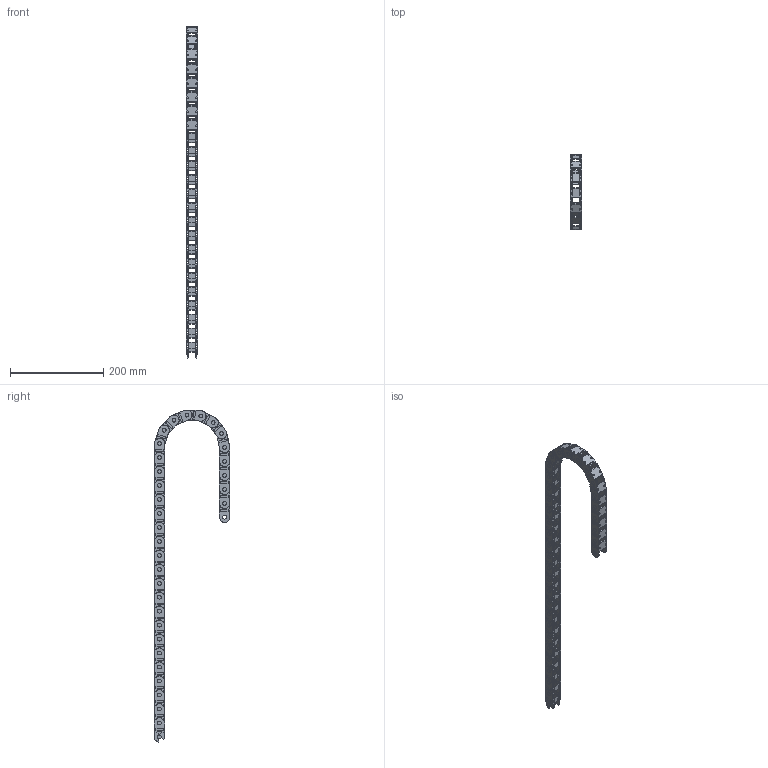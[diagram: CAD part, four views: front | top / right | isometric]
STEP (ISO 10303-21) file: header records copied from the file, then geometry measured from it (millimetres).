
FILE_DESCRIPTION (( 'STEP AP203' ), '1' );
FILE_NAME ('22.025.4-R70.STEP', '2025-04-15T08:43:06', ( '' ), ( '' ), 'SwSTEP 2.0', 'SolidWorks 2023', '' );
FILE_SCHEMA (( 'CONFIG_CONTROL_DESIGN' ));
Length unit declared in the file: millimetre
Products named in the file (3): 22.025.4_100981; Kopie von Kettenglied_Kettenvorlage_Kolibri^Unterbaugruppe_TD000008; 22.025.4-R70
Assembly tree (34 placements, depth 3):
  22.025.4-R70
    Kopie von Kettenglied_Kettenvorlage_Kolibri^Unterbaugruppe_TD000008  x33
      22.025.4_100981
Bounding box: 25 x 162 x 712.72 mm (x, y, z)
Volume: 208156.7 mm3; surface area: 219712.8 mm2
Topology: 33 solids, 33 shells, 3102 faces, 9108 edges, 6072 vertices
Faces by surface type: plane 1815, cylinder 1287
Entity records: 4505 total; most frequent: CARTESIAN_POINT 640, DIRECTION 616, ORIENTED_EDGE 552, EDGE_CURVE 276, AXIS2_PLACEMENT_3D 224, VERTEX_POINT 184, LINE 168, VECTOR 168
